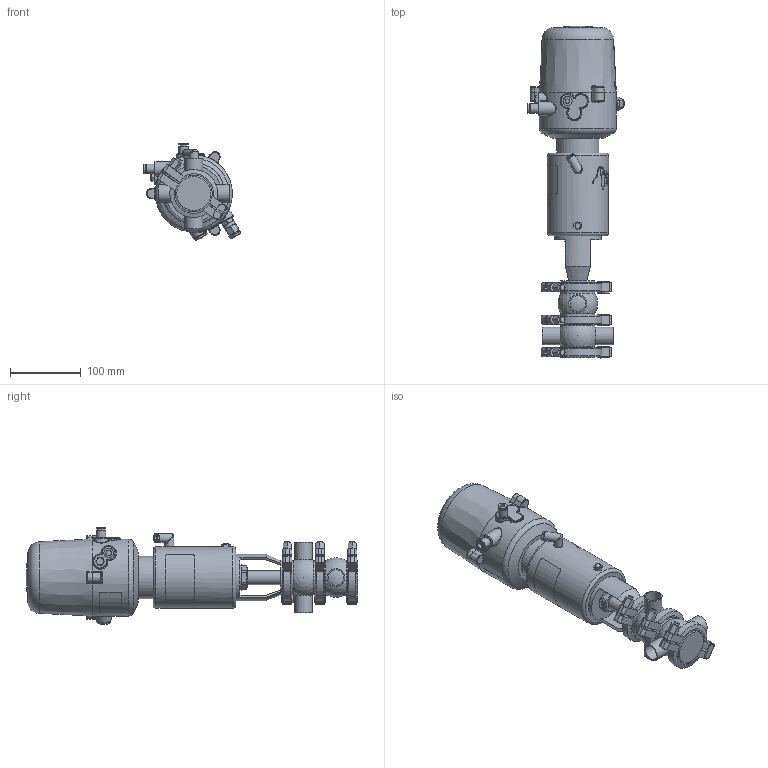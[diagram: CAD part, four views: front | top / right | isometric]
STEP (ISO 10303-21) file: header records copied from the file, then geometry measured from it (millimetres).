
FILE_DESCRIPTION (( 'STEP AP214' ), '1' );
FILE_NAME ('INNOVA M C W OD 1 T1 AS NC & C-TOP S_10.241.16.0043.STEP', '2024-08-07T06:31:22', ( '' ), ( '' ), 'SwSTEP 2.0', 'SolidWorks 2023', '' );
FILE_SCHEMA (( 'AUTOMOTIVE_DESIGN' ));
Length unit declared in the file: millimetre
Products named in the file (8): 10.240.15.0010_DN 025; 10.426.15.0001_C-TOP S - 1 EV; 10.241.15.0001_DIN 025; 10.240.15.0007_OD 1"; INNOVA M C W OD 1 T1 AS NC & C-TOP S_10.241.16.0043; 10.240.15.0017_Estàndard; 10.240.15.0001_DN 025; 10.240.15.0014_T1 AS P180
Assembly tree (10 placements, depth 2):
  INNOVA M C W OD 1 T1 AS NC & C-TOP S_10.241.16.0043
    10.240.15.0007_OD 1"  x2
    10.240.15.0010_DN 025
    10.240.15.0014_T1 AS P180
    10.240.15.0017_Estàndard
    10.426.15.0001_C-TOP S - 1 EV
    10.240.15.0001_DN 025  x3
    10.241.15.0001_DIN 025
Bounding box: 136.88 x 470.09 x 137.63 mm (x, y, z)
Volume: 2541486.6 mm3; surface area: 252200.5 mm2
Topology: 11 solids, 11 shells, 1247 faces, 3022 edges, 2007 vertices
Faces by surface type: plane 444, cylinder 382, cone 215, bspline 160, torus 36, sphere 10
Full cylindrical faces by diameter (mm): 0.371 x17, 0.512 x16, 0.658 x16, 0.795 x16, 0.94 x15, 1.098 x15, 1.241 x13, 1.382 x13, 1.523 x11, 1.669 x10, 2.201 x1, 4 x2, 5.5 x2, 6 x2, 6.15 x1, 8 x8, 8.5 x1, 10 x1, 10.5 x1, 11 x2, 12.5 x3, 13 x2, 13.5 x2, 16 x1, 17 x3, 20 x3, 20.5 x1, 22 x2, 22.1 x4, 25.4 x4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
Entity records: 56890 total; most frequent: CARTESIAN_POINT 26665, ORIENTED_EDGE 4520, DIRECTION 3653, EDGE_CURVE 2260, VERTEX_POINT 1605, EDGE_LOOP 1559, AXIS2_PLACEMENT_3D 1494, FACE_OUTER_BOUND 1325
